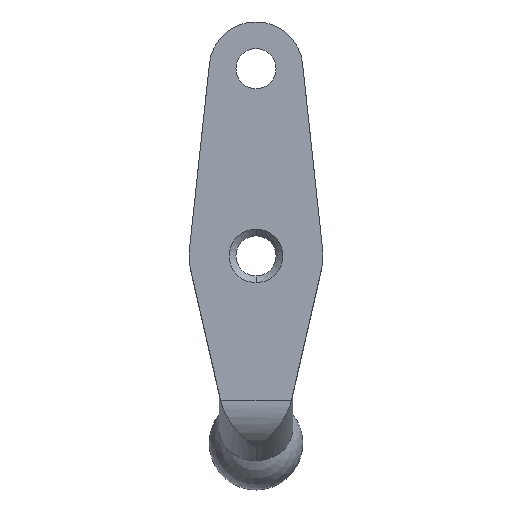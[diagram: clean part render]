
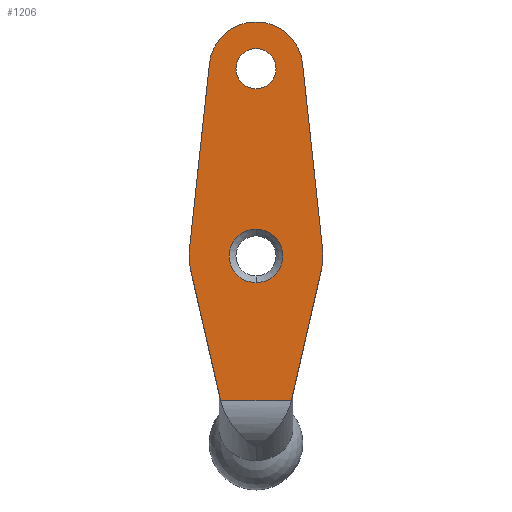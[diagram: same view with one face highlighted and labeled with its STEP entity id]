
A CAD part, front view. The second image highlights one B-rep face of the part: STEP entity #1206.
In plain terms, the highlighted planar face has unit normal (0, -1, 0).
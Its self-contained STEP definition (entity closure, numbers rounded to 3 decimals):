
#17 = FACE_BOUND ( 'NONE', #1392, .T. ) ;
#49 = VERTEX_POINT ( 'NONE', #1412 ) ;
#64 = DIRECTION ( 'NONE',  ( 0.107, 0., 0.994 ) ) ;
#74 = DIRECTION ( 'NONE',  ( 0., 0., 1. ) ) ;
#97 = EDGE_CURVE ( 'NONE', #1842, #49, #1551, .T. ) ;
#168 = CARTESIAN_POINT ( 'NONE',  ( 0., -7., 28. ) ) ;
#199 = CARTESIAN_POINT ( 'NONE',  ( -2.646, -7., 3.175 ) ) ;
#216 = ORIENTED_EDGE ( 'NONE', *, *, #97, .T. ) ;
#244 = CARTESIAN_POINT ( 'NONE',  ( 0., -7., 28. ) ) ;
#250 = CARTESIAN_POINT ( 'NONE',  ( -2.654, -7., 3.211 ) ) ;
#255 = ORIENTED_EDGE ( 'NONE', *, *, #1004, .T. ) ;
#291 = DIRECTION ( 'NONE',  ( 0.107, 0., -0.994 ) ) ;
#312 = CARTESIAN_POINT ( 'NONE',  ( 0., -7., 16. ) ) ;
#375 = CARTESIAN_POINT ( 'NONE',  ( 2.646, -7., 3.175 ) ) ;
#390 = AXIS2_PLACEMENT_3D ( 'NONE', #1931, #425, #937 ) ;
#393 = DIRECTION ( 'NONE',  ( 0., -1., 0. ) ) ;
#395 = CARTESIAN_POINT ( 'NONE',  ( 0., -7., 14. ) ) ;
#425 = DIRECTION ( 'NONE',  ( 0., 1., 0. ) ) ;
#429 = DIRECTION ( 'NONE',  ( 0., 1., 0. ) ) ;
#454 = VERTEX_POINT ( 'NONE', #1568 ) ;
#488 = CARTESIAN_POINT ( 'NONE',  ( 3.48, -7., 28.375 ) ) ;
#500 = PLANE ( 'NONE',  #979 ) ;
#507 = DIRECTION ( 'NONE',  ( 0., 0., 1. ) ) ;
#513 = DIRECTION ( 'NONE',  ( 0., 1., 0. ) ) ;
#545 = CARTESIAN_POINT ( 'NONE',  ( -2.65, -7., 3.193 ) ) ;
#550 = VERTEX_POINT ( 'NONE', #1351 ) ;
#583 = CARTESIAN_POINT ( 'NONE',  ( -4.873, -7., 12.882 ) ) ;
#593 = ORIENTED_EDGE ( 'NONE', *, *, #972, .F. ) ;
#617 = EDGE_CURVE ( 'NONE', #550, #2132, #1098, .T. ) ;
#618 = EDGE_CURVE ( 'NONE', #454, #2069, #2034, .T. ) ;
#668 = VECTOR ( 'NONE', #64, 1000. ) ;
#701 = AXIS2_PLACEMENT_3D ( 'NONE', #168, #513, #507 ) ;
#764 = ORIENTED_EDGE ( 'NONE', *, *, #1889, .T. ) ;
#778 = LINE ( 'NONE', #583, #1155 ) ;
#850 = CARTESIAN_POINT ( 'NONE',  ( 2.646, -7., 3.175 ) ) ;
#876 = ORIENTED_EDGE ( 'NONE', *, *, #1302, .F. ) ;
#879 = CARTESIAN_POINT ( 'NONE',  ( 2.65, -7., 3.193 ) ) ;
#899 = ORIENTED_EDGE ( 'NONE', *, *, #1690, .T. ) ;
#903 = EDGE_CURVE ( 'NONE', #1947, #2075, #1178, .T. ) ;
#914 = CIRCLE ( 'NONE', #1624, 2. ) ;
#915 = CARTESIAN_POINT ( 'NONE',  ( -2.658, -7., 3.228 ) ) ;
#918 = DIRECTION ( 'NONE',  ( 0.224, 0., -0.975 ) ) ;
#932 = DIRECTION ( 'NONE',  ( 0., -1., 0. ) ) ;
#937 = DIRECTION ( 'NONE',  ( 0., 0., 1. ) ) ;
#939 = CIRCLE ( 'NONE', #1728, 5. ) ;
#954 = ORIENTED_EDGE ( 'NONE', *, *, #618, .T. ) ;
#972 = EDGE_CURVE ( 'NONE', #1556, #1529, #1149, .T. ) ;
#979 = AXIS2_PLACEMENT_3D ( 'NONE', #1332, #1159, #1843 ) ;
#986 = ORIENTED_EDGE ( 'NONE', *, *, #903, .T. ) ;
#987 = EDGE_CURVE ( 'NONE', #49, #1842, #914, .T. ) ;
#989 = EDGE_LOOP ( 'NONE', ( #255, #899, #1049, #764, #876, #2180, #954, #1899, #2076, #593 ) ) ;
#1004 = EDGE_CURVE ( 'NONE', #1556, #1097, #939, .T. ) ;
#1031 = LINE ( 'NONE', #1992, #1522 ) ;
#1036 = CARTESIAN_POINT ( 'NONE',  ( 0., -7., 26.5 ) ) ;
#1049 = ORIENTED_EDGE ( 'NONE', *, *, #617, .F. ) ;
#1080 = VECTOR ( 'NONE', #291, 1000. ) ;
#1082 = FACE_OUTER_BOUND ( 'NONE', #989, .T. ) ;
#1092 = DIRECTION ( 'NONE',  ( 0., 0., 1. ) ) ;
#1097 = VERTEX_POINT ( 'NONE', #1292 ) ;
#1098 =( BOUNDED_CURVE ( )  B_SPLINE_CURVE ( 3, ( #199, #545, #250, #1753 ),
 .UNSPECIFIED., .F., .T. ) 
 B_SPLINE_CURVE_WITH_KNOTS ( ( 4, 4 ),
 ( 1.295, 1.312 ),
 .UNSPECIFIED. ) 
 CURVE ( )  GEOMETRIC_REPRESENTATION_ITEM ( )  RATIONAL_B_SPLINE_CURVE ( ( 1., 1., 1., 1. ) ) 
 REPRESENTATION_ITEM ( '' )  );
#1102 = CARTESIAN_POINT ( 'NONE',  ( 0., -7., 14. ) ) ;
#1128 = VECTOR ( 'NONE', #2134, 1000. ) ;
#1133 = EDGE_CURVE ( 'NONE', #1948, #454, #1031, .T. ) ;
#1149 = LINE ( 'NONE', #2115, #668 ) ;
#1155 = VECTOR ( 'NONE', #918, 1000. ) ;
#1159 = DIRECTION ( 'NONE',  ( 0., 1., 0. ) ) ;
#1178 = CIRCLE ( 'NONE', #1653, 1.5 ) ;
#1193 = VERTEX_POINT ( 'NONE', #488 ) ;
#1203 = CARTESIAN_POINT ( 'NONE',  ( 4.971, -7., 14.536 ) ) ;
#1206 = ADVANCED_FACE ( 'NONE', ( #2122, #17, #1082 ), #500, .F. ) ;
#1213 = EDGE_CURVE ( 'NONE', #1529, #1193, #1749, .T. ) ;
#1251 = AXIS2_PLACEMENT_3D ( 'NONE', #1911, #393, #1258 ) ;
#1254 = DIRECTION ( 'NONE',  ( 0., 0., -1. ) ) ;
#1258 = DIRECTION ( 'NONE',  ( 0., 0., -1. ) ) ;
#1292 = CARTESIAN_POINT ( 'NONE',  ( -4.873, -7., 12.882 ) ) ;
#1301 = CARTESIAN_POINT ( 'NONE',  ( -4.971, -7., 14.536 ) ) ;
#1302 = EDGE_CURVE ( 'NONE', #1948, #2047, #1427, .T. ) ;
#1332 = CARTESIAN_POINT ( 'NONE',  ( -5., -7., 14. ) ) ;
#1351 = CARTESIAN_POINT ( 'NONE',  ( -2.646, -7., 3.175 ) ) ;
#1358 = CARTESIAN_POINT ( 'NONE',  ( 2.658, -7., 3.228 ) ) ;
#1363 = CARTESIAN_POINT ( 'NONE',  ( 0., -7., 29.5 ) ) ;
#1369 = CARTESIAN_POINT ( 'NONE',  ( 2.658, -7., 3.228 ) ) ;
#1392 = EDGE_LOOP ( 'NONE', ( #1731, #986 ) ) ;
#1412 = CARTESIAN_POINT ( 'NONE',  ( 0., -7., 12. ) ) ;
#1427 =( BOUNDED_CURVE ( )  B_SPLINE_CURVE ( 3, ( #1369, #1530, #879, #850 ),
 .UNSPECIFIED., .F., .F. ) 
 B_SPLINE_CURVE_WITH_KNOTS ( ( 4, 4 ),
 ( 4.971, 4.989 ),
 .UNSPECIFIED. ) 
 CURVE ( )  GEOMETRIC_REPRESENTATION_ITEM ( )  RATIONAL_B_SPLINE_CURVE ( ( 1., 1., 1., 1. ) ) 
 REPRESENTATION_ITEM ( '' )  );
#1442 = CARTESIAN_POINT ( 'NONE',  ( 0., -7., 14. ) ) ;
#1467 = CARTESIAN_POINT ( 'NONE',  ( -3.48, -7., 28.375 ) ) ;
#1506 = DIRECTION ( 'NONE',  ( 0.224, 0., 0.975 ) ) ;
#1522 = VECTOR ( 'NONE', #1506, 1000. ) ;
#1529 = VERTEX_POINT ( 'NONE', #1467 ) ;
#1530 = CARTESIAN_POINT ( 'NONE',  ( 2.654, -7., 3.211 ) ) ;
#1551 = CIRCLE ( 'NONE', #2153, 2. ) ;
#1556 = VERTEX_POINT ( 'NONE', #1301 ) ;
#1568 = CARTESIAN_POINT ( 'NONE',  ( 4.873, -7., 12.882 ) ) ;
#1597 = LINE ( 'NONE', #1649, #1128 ) ;
#1624 = AXIS2_PLACEMENT_3D ( 'NONE', #395, #2080, #1092 ) ;
#1640 = EDGE_LOOP ( 'NONE', ( #1789, #216 ) ) ;
#1649 = CARTESIAN_POINT ( 'NONE',  ( -7.5, -7., 3.175 ) ) ;
#1653 = AXIS2_PLACEMENT_3D ( 'NONE', #244, #429, #74 ) ;
#1670 = EDGE_CURVE ( 'NONE', #2075, #1947, #2087, .T. ) ;
#1690 = EDGE_CURVE ( 'NONE', #1097, #2132, #778, .T. ) ;
#1728 = AXIS2_PLACEMENT_3D ( 'NONE', #1102, #932, #1254 ) ;
#1731 = ORIENTED_EDGE ( 'NONE', *, *, #1670, .T. ) ;
#1749 = CIRCLE ( 'NONE', #701, 3.5 ) ;
#1753 = CARTESIAN_POINT ( 'NONE',  ( -2.658, -7., 3.228 ) ) ;
#1789 = ORIENTED_EDGE ( 'NONE', *, *, #987, .T. ) ;
#1806 = CARTESIAN_POINT ( 'NONE',  ( 4.971, -7., 14.536 ) ) ;
#1820 = EDGE_CURVE ( 'NONE', #1193, #2069, #2058, .T. ) ;
#1842 = VERTEX_POINT ( 'NONE', #312 ) ;
#1843 = DIRECTION ( 'NONE',  ( 0., 0., 1. ) ) ;
#1889 = EDGE_CURVE ( 'NONE', #550, #2047, #1597, .T. ) ;
#1899 = ORIENTED_EDGE ( 'NONE', *, *, #1820, .F. ) ;
#1911 = CARTESIAN_POINT ( 'NONE',  ( 0., -7., 14. ) ) ;
#1931 = CARTESIAN_POINT ( 'NONE',  ( 0., -7., 28. ) ) ;
#1947 = VERTEX_POINT ( 'NONE', #1036 ) ;
#1948 = VERTEX_POINT ( 'NONE', #1358 ) ;
#1992 = CARTESIAN_POINT ( 'NONE',  ( 2.658, -7., 3.228 ) ) ;
#2034 = CIRCLE ( 'NONE', #1251, 5. ) ;
#2047 = VERTEX_POINT ( 'NONE', #375 ) ;
#2058 = LINE ( 'NONE', #1806, #1080 ) ;
#2069 = VERTEX_POINT ( 'NONE', #1203 ) ;
#2075 = VERTEX_POINT ( 'NONE', #1363 ) ;
#2076 = ORIENTED_EDGE ( 'NONE', *, *, #1213, .F. ) ;
#2080 = DIRECTION ( 'NONE',  ( 0., 1., 0. ) ) ;
#2087 = CIRCLE ( 'NONE', #390, 1.5 ) ;
#2102 = DIRECTION ( 'NONE',  ( 0., 0., 1. ) ) ;
#2111 = DIRECTION ( 'NONE',  ( 0., 1., 0. ) ) ;
#2115 = CARTESIAN_POINT ( 'NONE',  ( -4.971, -7., 14.536 ) ) ;
#2122 = FACE_BOUND ( 'NONE', #1640, .T. ) ;
#2132 = VERTEX_POINT ( 'NONE', #915 ) ;
#2134 = DIRECTION ( 'NONE',  ( 1., 0., 0. ) ) ;
#2153 = AXIS2_PLACEMENT_3D ( 'NONE', #1442, #2111, #2102 ) ;
#2180 = ORIENTED_EDGE ( 'NONE', *, *, #1133, .T. ) ;
